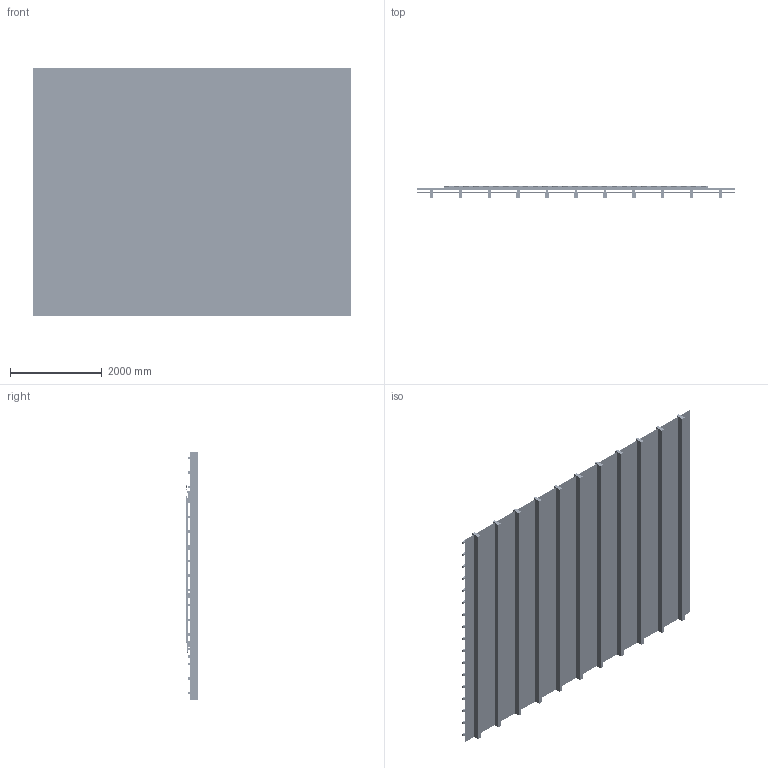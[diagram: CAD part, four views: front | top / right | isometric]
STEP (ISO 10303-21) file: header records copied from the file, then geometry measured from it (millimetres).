
FILE_DESCRIPTION(/* description */ ('Montagezeichnung Solrif N'),/* implementation_level */ '2;1');
FILE_NAME(/* name */ 'C:\Users\FOS2686\OneDrive - ernstschweizer.ch\Desktop\H106968.stp',/* time_stamp */ '2023-01-10T07:27:07+01:00',/* author */ ('FOS2686'),/* organization */ (''),/* preprocessor_version */ 'ST-DEVELOPER v18.1',/* originating_system */ 'Autodesk Inventor 2022',/* authorisation */ '');
FILE_SCHEMA (('AUTOMOTIVE_DESIGN { 1 0 10303 214 3 1 1 }'));
Products named in the file (30): H106968; H106970; H106974; H106972; H106971; H106973; H106973_1; H106973_2; H107427; H107426; H107425; H106850; H100680; H100647; H100706; H101219-02; H019837; H106978; H106981; H100118-01; H100120-01; H107072; H019841; H108576-01; H108576-03; H108576; H108576-02; H108576_1; H121786; H001621
Assembly tree (140 placements, depth 3):
  H106968
    H106970
      H106974
      H106972  x11
      H106971  x11
      H106973_2  x15
      H106973
      H106973_1
    H107427
    H107072  x9
    H019841  x27
    H107426
    H107425  x4
    H019837  x21
    H106850
    H100680
    H100647
    H100706  x2
    H101219-02  x3
    H106978  x3
    H106981  x3
    H100118-01  x3
    H100120-01  x3
    H108576-01
      H108576_1
      H121786  x2
      H001621  x2
    H108576-03
      H108576
      H121786
      H001621
    H108576-02  x3
      H108576_1
      H121786
      H001621
Bounding box: 6911 x 261.03 x 5387 mm (x, y, z)
Volume: 1252545279.4 mm3; surface area: 195479228.3 mm2
Topology: 556 solids, 556 shells, 35077 faces, 90325 edges, 54721 vertices
Faces by surface type: cylinder 13834, plane 11877, bspline 4404, torus 3666, cone 708, sphere 588
Full cylindrical faces by diameter (mm): 3.242 x72, 3.3 x18, 4 x72, 4.5 x102, 4.8 x18, 5 x4, 5.459 x102, 5.5 x12, 5.557 x102, 6 x18, 12.5 x9
Entity records: 172220 total; most frequent: CARTESIAN_POINT 51046, ORIENTED_EDGE 24798, DIRECTION 23630, EDGE_CURVE 12399, AXIS2_PLACEMENT_3D 8176, VERTEX_POINT 7687, LINE 7278, VECTOR 7278
